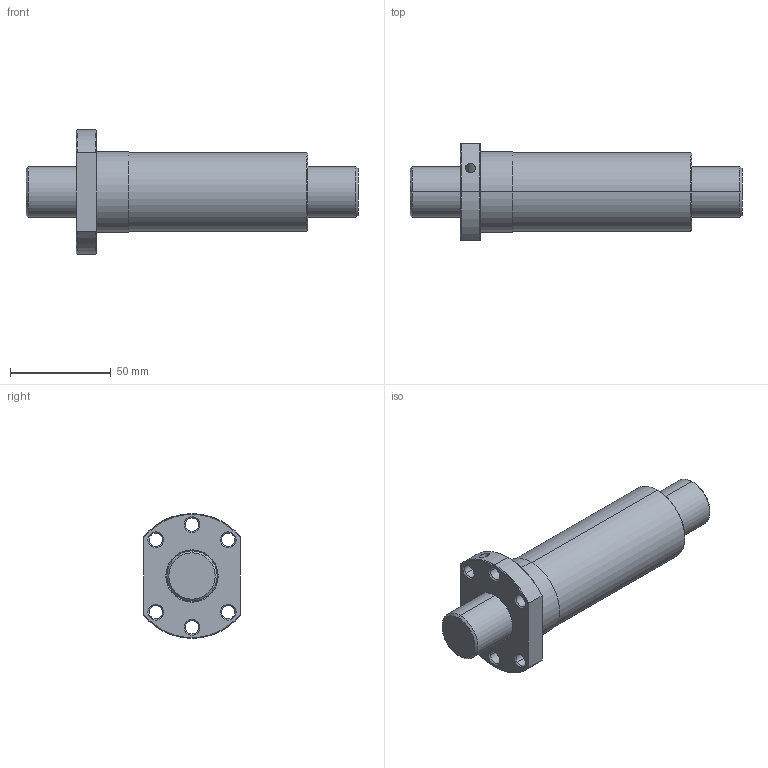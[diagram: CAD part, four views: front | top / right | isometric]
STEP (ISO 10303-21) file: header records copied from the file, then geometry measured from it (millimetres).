
FILE_DESCRIPTION(('no description'),'unknown implementation level');
FILE_NAME('R25_10T3_DDB_165_165_0_023_55.stp',' ',('HIWIN GmbH'),('CADClick - KiM GmbH - www.kimweb.de'),'unknown preprocess','ACIS','unknown authorization');
FILE_SCHEMA(('CONFIG_CONTROL_DESIGN'));
Length unit declared in the file: millimetre
Products named in the file (2): 1; 2
Bounding box: 165 x 48 x 62 mm (x, y, z)
Volume: 174948.1 mm3; surface area: 42775.7 mm2
Topology: 2 solids, 2 shells, 78 faces, 176 edges, 103 vertices
Faces by surface type: cone 44, cylinder 26, plane 8
Entity records: 2329 total; most frequent: CARTESIAN_POINT 440, DIRECTION 416, ORIENTED_EDGE 348, EDGE_CURVE 174, AXIS2_PLACEMENT_3D 172, VERTEX_POINT 103, EDGE_LOOP 95, CIRCLE 92
